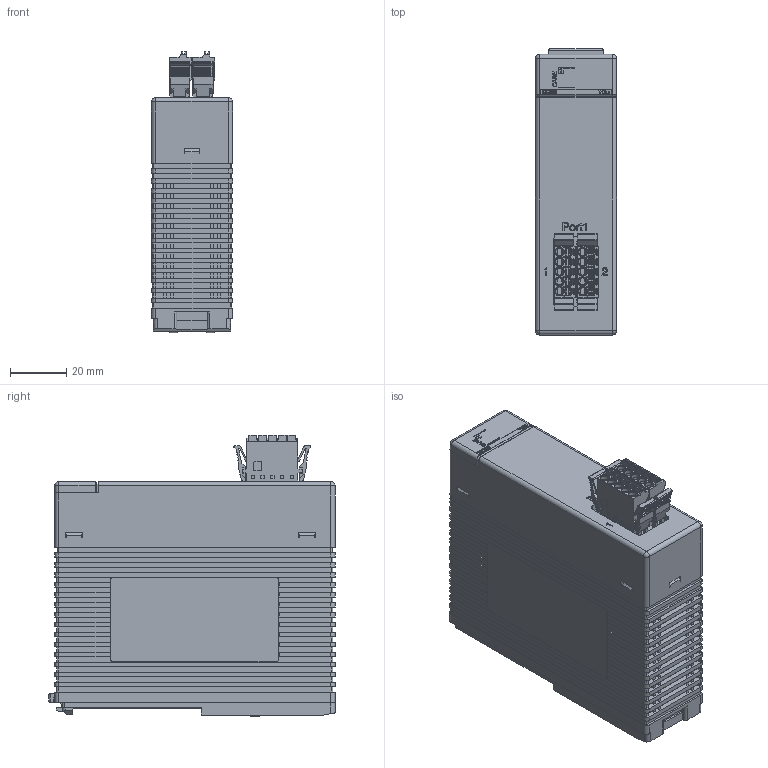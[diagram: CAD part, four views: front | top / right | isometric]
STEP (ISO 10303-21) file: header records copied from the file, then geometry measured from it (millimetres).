
FILE_DESCRIPTION (( 'STEP AP214' ), '1' );
FILE_NAME ('YCU-SQ60_250627.STEP', '2025-06-27T05:29:26', ( '' ), ( '' ), 'SwSTEP 2.0', 'SolidWorks 2022', '' );
FILE_SCHEMA (( 'AUTOMOTIVE_DESIGN' ));
Length unit declared in the file: millimetre
Products named in the file (1): YCU-SQ60_250627
Bounding box: 28.9 x 102 x 100.25 mm (x, y, z)
Volume: 230493.8 mm3; surface area: 39491 mm2
Topology: 1 solids, 22 shells, 4084 faces, 11538 edges, 7574 vertices
Faces by surface type: plane 2972, cylinder 819, bspline 185, cone 82, torus 22, sphere 4
Entity records: 193146 total; most frequent: CARTESIAN_POINT 43402, ORIENTED_EDGE 23068, DIRECTION 19894, EDGE_CURVE 11534, LINE 9258, VECTOR 9258, VERTEX_POINT 7574, AXIS2_PLACEMENT_3D 5318
